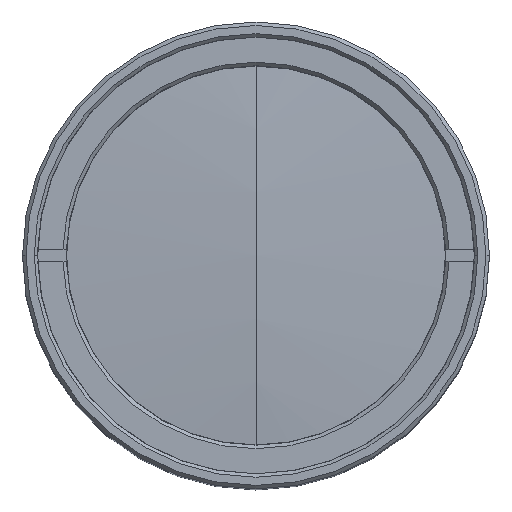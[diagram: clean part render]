
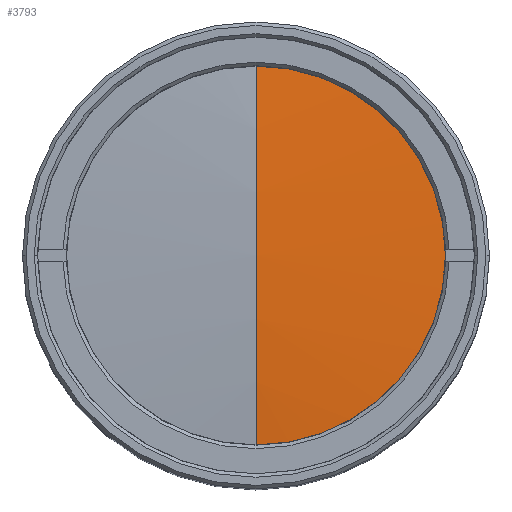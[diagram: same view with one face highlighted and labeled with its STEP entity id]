
A CAD part, top view. The second image highlights one B-rep face of the part: STEP entity #3793.
In plain terms, the highlighted spherical face has radius 167 mm.
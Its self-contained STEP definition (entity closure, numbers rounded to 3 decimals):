
#74 = CARTESIAN_POINT ( 'NONE',  ( 0., 0., -92.2 ) ) ;
#211 = EDGE_CURVE ( 'NONE', #891, #3931, #1645, .T. ) ;
#405 = EDGE_CURVE ( 'NONE', #3931, #673, #4554, .T. ) ;
#468 = AXIS2_PLACEMENT_3D ( 'NONE', #1927, #4338, #3579 ) ;
#491 = SPHERICAL_SURFACE ( 'NONE', #4718, 167. ) ;
#519 = DIRECTION ( 'NONE',  ( 1., 0., 0. ) ) ;
#597 = ORIENTED_EDGE ( 'NONE', *, *, #211, .T. ) ;
#673 = VERTEX_POINT ( 'NONE', #4572 ) ;
#719 = DIRECTION ( 'NONE',  ( -1., 0., 0. ) ) ;
#891 = VERTEX_POINT ( 'NONE', #1660 ) ;
#1461 = AXIS2_PLACEMENT_3D ( 'NONE', #3459, #1833, #4650 ) ;
#1645 = CIRCLE ( 'NONE', #3470, 167. ) ;
#1660 = CARTESIAN_POINT ( 'NONE',  ( 0., 0., 74.8 ) ) ;
#1833 = DIRECTION ( 'NONE',  ( 0., 0., 1. ) ) ;
#1927 = CARTESIAN_POINT ( 'NONE',  ( 0., 0., -92.2 ) ) ;
#2118 = DIRECTION ( 'NONE',  ( 0., 1., 0. ) ) ;
#2261 = CARTESIAN_POINT ( 'NONE',  ( 0., 16.225, 74.01 ) ) ;
#2302 = CIRCLE ( 'NONE', #468, 167. ) ;
#2329 = ORIENTED_EDGE ( 'NONE', *, *, #405, .T. ) ;
#2335 = CIRCLE ( 'NONE', #1461, 16.225 ) ;
#2561 = FACE_OUTER_BOUND ( 'NONE', #5099, .T. ) ;
#2580 = AXIS2_PLACEMENT_3D ( 'NONE', #3344, #5240, #719 ) ;
#2838 = EDGE_CURVE ( 'NONE', #891, #3985, #2302, .T. ) ;
#3344 = CARTESIAN_POINT ( 'NONE',  ( 0., 0., 74.01 ) ) ;
#3390 = DIRECTION ( 'NONE',  ( 0., 1., 0. ) ) ;
#3459 = CARTESIAN_POINT ( 'NONE',  ( 0., 0., 74.01 ) ) ;
#3470 = AXIS2_PLACEMENT_3D ( 'NONE', #74, #4252, #3390 ) ;
#3578 = ORIENTED_EDGE ( 'NONE', *, *, #5008, .T. ) ;
#3579 = DIRECTION ( 'NONE',  ( 0., 0., 1. ) ) ;
#3793 = ADVANCED_FACE ( 'NONE', ( #2561 ), #491, .T. ) ;
#3924 = ORIENTED_EDGE ( 'NONE', *, *, #2838, .F. ) ;
#3931 = VERTEX_POINT ( 'NONE', #5172 ) ;
#3985 = VERTEX_POINT ( 'NONE', #2261 ) ;
#4252 = DIRECTION ( 'NONE',  ( 1., 0., 0. ) ) ;
#4338 = DIRECTION ( 'NONE',  ( -1., 0., 0. ) ) ;
#4554 = CIRCLE ( 'NONE', #2580, 16.225 ) ;
#4572 = CARTESIAN_POINT ( 'NONE',  ( 16.225, 0., 74.01 ) ) ;
#4650 = DIRECTION ( 'NONE',  ( -1., 0., 0. ) ) ;
#4695 = CARTESIAN_POINT ( 'NONE',  ( 0., 0., -92.2 ) ) ;
#4718 = AXIS2_PLACEMENT_3D ( 'NONE', #4695, #519, #2118 ) ;
#5008 = EDGE_CURVE ( 'NONE', #673, #3985, #2335, .T. ) ;
#5099 = EDGE_LOOP ( 'NONE', ( #3924, #597, #2329, #3578 ) ) ;
#5172 = CARTESIAN_POINT ( 'NONE',  ( 0., -16.225, 74.01 ) ) ;
#5240 = DIRECTION ( 'NONE',  ( 0., 0., 1. ) ) ;
